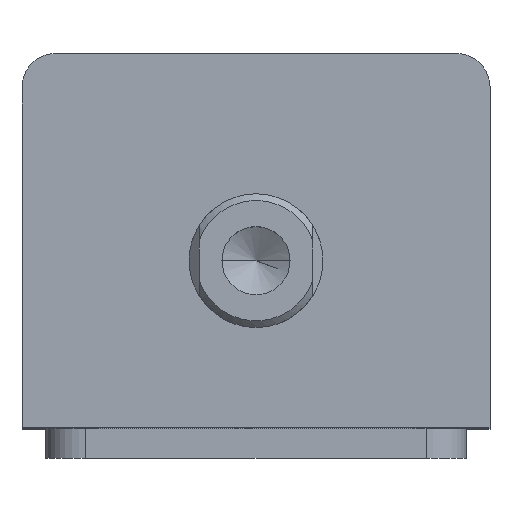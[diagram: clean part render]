
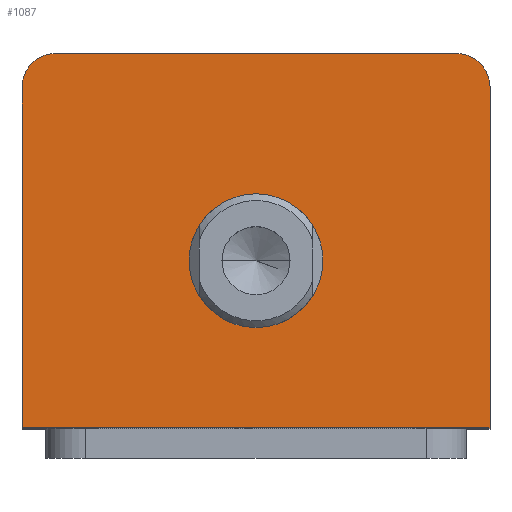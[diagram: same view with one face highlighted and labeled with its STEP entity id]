
A CAD part, top view. The second image highlights one B-rep face of the part: STEP entity #1087.
In plain terms, the highlighted planar face has unit normal (0, 0, 1).
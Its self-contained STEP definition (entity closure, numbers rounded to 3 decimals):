
#72 = ORIENTED_EDGE ( 'NONE', *, *, #1488, .F. ) ;
#78 = ORIENTED_EDGE ( 'NONE', *, *, #1516, .T. ) ;
#154 = AXIS2_PLACEMENT_3D ( 'NONE', #814, #809, #808 ) ;
#184 = AXIS2_PLACEMENT_3D ( 'NONE', #1810, #1817, #1809 ) ;
#190 = AXIS2_PLACEMENT_3D ( 'NONE', #1185, #1184, #1183 ) ;
#201 = AXIS2_PLACEMENT_3D ( 'NONE', #1254, #1253, #1252 ) ;
#258 = AXIS2_PLACEMENT_3D ( 'NONE', #1302, #1301, #1300 ) ;
#350 = ORIENTED_EDGE ( 'NONE', *, *, #1523, .T. ) ;
#359 = ORIENTED_EDGE ( 'NONE', *, *, #1501, .T. ) ;
#391 = VERTEX_POINT ( 'NONE', #2359 ) ;
#443 = VERTEX_POINT ( 'NONE', #2335 ) ;
#457 = VERTEX_POINT ( 'NONE', #2319 ) ;
#476 = VERTEX_POINT ( 'NONE', #2296 ) ;
#477 = VERTEX_POINT ( 'NONE', #2295 ) ;
#482 = VERTEX_POINT ( 'NONE', #2279 ) ;
#507 = VERTEX_POINT ( 'NONE', #784 ) ;
#513 = VERTEX_POINT ( 'NONE', #798 ) ;
#559 = EDGE_LOOP ( 'NONE', ( #2903, #359, #2914, #78, #350, #2938 ) ) ;
#575 = EDGE_LOOP ( 'NONE', ( #1028, #72 ) ) ;
#642 = LINE ( 'NONE', #1340, #2777 ) ;
#784 = CARTESIAN_POINT ( 'NONE',  ( 35., -28., 119. ) ) ;
#798 = CARTESIAN_POINT ( 'NONE',  ( -35., -28., 119. ) ) ;
#808 = DIRECTION ( 'NONE',  ( 1., 0., 0. ) ) ;
#809 = DIRECTION ( 'NONE',  ( 0., 0., 1. ) ) ;
#811 = PLANE ( 'NONE',  #154 ) ;
#814 = CARTESIAN_POINT ( 'NONE',  ( 0., 0., 119. ) ) ;
#1028 = ORIENTED_EDGE ( 'NONE', *, *, #1548, .F. ) ;
#1087 = ADVANCED_FACE ( 'NONE', ( #2608, #2618 ), #811, .T. ) ;
#1156 = DIRECTION ( 'NONE',  ( 0., -1., 0. ) ) ;
#1158 = CARTESIAN_POINT ( 'NONE',  ( -35., 28., 119. ) ) ;
#1180 = DIRECTION ( 'NONE',  ( 1., 0., 0. ) ) ;
#1182 = CARTESIAN_POINT ( 'NONE',  ( -35., -28., 119. ) ) ;
#1183 = DIRECTION ( 'NONE',  ( 1., 0., 0. ) ) ;
#1184 = DIRECTION ( 'NONE',  ( 0., 0., 1. ) ) ;
#1185 = CARTESIAN_POINT ( 'NONE',  ( -30., 23., 119. ) ) ;
#1252 = DIRECTION ( 'NONE',  ( 1., 0., 0. ) ) ;
#1253 = DIRECTION ( 'NONE',  ( 0., 0., 1. ) ) ;
#1254 = CARTESIAN_POINT ( 'NONE',  ( 30., 23., 119. ) ) ;
#1260 = DIRECTION ( 'NONE',  ( -1., 0., 0. ) ) ;
#1265 = CARTESIAN_POINT ( 'NONE',  ( -35., 28., 119. ) ) ;
#1300 = DIRECTION ( 'NONE',  ( 1., 0., 0. ) ) ;
#1301 = DIRECTION ( 'NONE',  ( 0., 0., 1. ) ) ;
#1302 = CARTESIAN_POINT ( 'NONE',  ( 0., -3., 119. ) ) ;
#1340 = CARTESIAN_POINT ( 'NONE',  ( 35., 28., 119. ) ) ;
#1349 = DIRECTION ( 'NONE',  ( 0., 1., 0. ) ) ;
#1448 = EDGE_CURVE ( 'NONE', #476, #477, #2723, .T. ) ;
#1463 = EDGE_CURVE ( 'NONE', #513, #507, #2751, .T. ) ;
#1481 = EDGE_CURVE ( 'NONE', #507, #457, #642, .T. ) ;
#1488 = EDGE_CURVE ( 'NONE', #391, #482, #2037, .T. ) ;
#1501 = EDGE_CURVE ( 'NONE', #457, #476, #2053, .T. ) ;
#1516 = EDGE_CURVE ( 'NONE', #477, #443, #2073, .T. ) ;
#1523 = EDGE_CURVE ( 'NONE', #443, #513, #2082, .T. ) ;
#1548 = EDGE_CURVE ( 'NONE', #482, #391, #2126, .T. ) ;
#1809 = DIRECTION ( 'NONE',  ( 1., 0., 0. ) ) ;
#1810 = CARTESIAN_POINT ( 'NONE',  ( 0., -3., 119. ) ) ;
#1817 = DIRECTION ( 'NONE',  ( 0., 0., 1. ) ) ;
#2037 = CIRCLE ( 'NONE', #258, 10. ) ;
#2053 = CIRCLE ( 'NONE', #201, 5. ) ;
#2073 = CIRCLE ( 'NONE', #190, 5. ) ;
#2082 = LINE ( 'NONE', #1158, #2085 ) ;
#2085 = VECTOR ( 'NONE', #1156, 1000. ) ;
#2126 = CIRCLE ( 'NONE', #184, 10. ) ;
#2279 = CARTESIAN_POINT ( 'NONE',  ( 10., -3., 119. ) ) ;
#2295 = CARTESIAN_POINT ( 'NONE',  ( -30., 28., 119. ) ) ;
#2296 = CARTESIAN_POINT ( 'NONE',  ( 30., 28., 119. ) ) ;
#2319 = CARTESIAN_POINT ( 'NONE',  ( 35., 23., 119. ) ) ;
#2335 = CARTESIAN_POINT ( 'NONE',  ( -35., 23., 119. ) ) ;
#2359 = CARTESIAN_POINT ( 'NONE',  ( -10., -3., 119. ) ) ;
#2608 = FACE_BOUND ( 'NONE', #575, .T. ) ;
#2618 = FACE_OUTER_BOUND ( 'NONE', #559, .T. ) ;
#2723 = LINE ( 'NONE', #1265, #2726 ) ;
#2726 = VECTOR ( 'NONE', #1260, 1000. ) ;
#2751 = LINE ( 'NONE', #1182, #2754 ) ;
#2754 = VECTOR ( 'NONE', #1180, 1000. ) ;
#2777 = VECTOR ( 'NONE', #1349, 1000. ) ;
#2903 = ORIENTED_EDGE ( 'NONE', *, *, #1481, .T. ) ;
#2914 = ORIENTED_EDGE ( 'NONE', *, *, #1448, .T. ) ;
#2938 = ORIENTED_EDGE ( 'NONE', *, *, #1463, .T. ) ;
